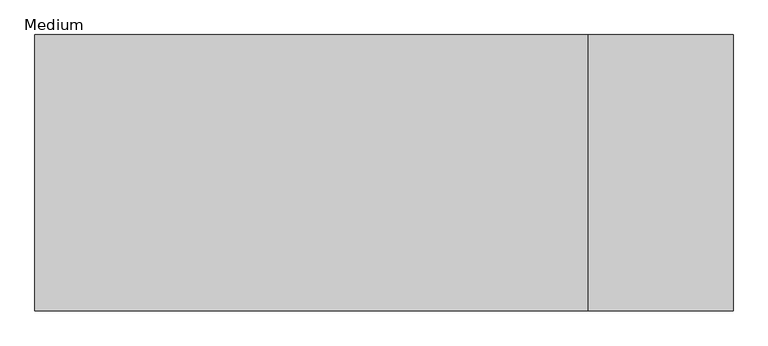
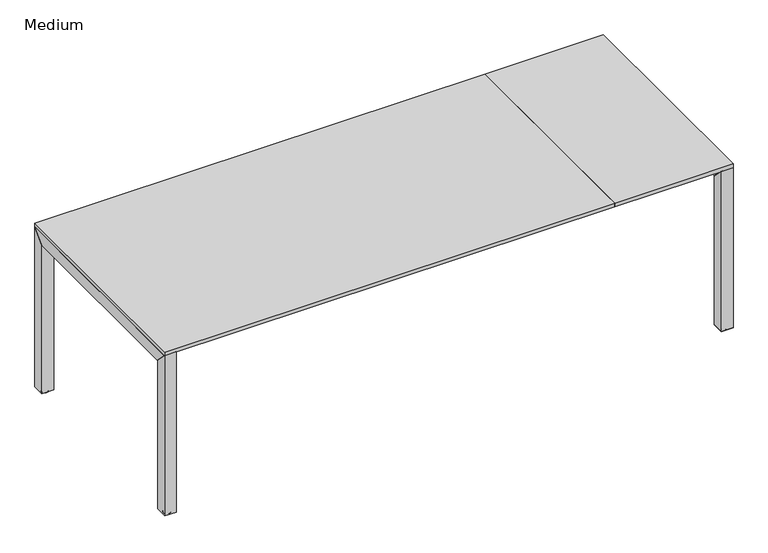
"""IFC4 building model written with IfcOpenShell, lengths in millimetres: furniture geometry, Haworth_Cassina_Naan_CollaborativeTable_ExtendableWidth_NA : Medium."""

from ifc_helpers import new_model, si_unit, point, frame, origin, place, context, project, spatial, polyline, circle_curve, ellipse_curve, trimmed, outline, extrude, faceted_brep, source, transform, mapped, element, save
from ifc_brep_helpers import plane_surface, cylinder_surface, revolved_surface, advanced_brep


def medium_e8491f86(model_context):
    return source(origin(), model_context, "Body", "SolidModel", [
        advanced_brep(
        [(-1315.5953804, 155.2687122, 4.1000279), (-1346.7850479, 155.2687122, 4.1000279), (-1331.1902141, 155.2687122, 4.1000279), (-1315.5953804, 155.2687122, 1.8535082), (-1346.7850479, 155.2687122, 1.8535082), (-1331.1902141, 155.2687122, 0.0), (-1344.9315396, 155.2687122, 0.0), (-1317.4488886, 155.2687122, 0.0)],
        [
            (0, 1, circle_curve(frame((-1331.1902141, 155.2687122, 4.1000279), z_axis=(0.0, 0.0, 1.0), x_axis=(-1.0, 0.0, 0.0)), 15.5948337)),
            (1, 2),
            (2, 0),
            (1, 0, circle_curve(frame((-1331.1902141, 155.2687122, 4.1000279), z_axis=(0.0, 0.0, 1.0), x_axis=(-1.0, 0.0, 0.0)), 15.5948337)),
            (3, 4, circle_curve(frame((-1331.1902141, 155.2687122, 1.8535082), z_axis=(0.0, 0.0, 1.0), x_axis=(-1.0, 0.0, 0.0)), 15.5948337)),
            (4, 1),
            (0, 3),
            (4, 3, circle_curve(frame((-1331.1902141, 155.2687122, 1.8535082), z_axis=(0.0, 0.0, 1.0), x_axis=(-1.0, 0.0, 0.0)), 15.5948337)),
            (5, 6),
            (6, 7, circle_curve(frame((-1331.1902141, 155.2687122, 0.0), z_axis=(0.0, 0.0, -1.0), x_axis=(-1.0, 0.0, 0.0)), 13.7413255)),
            (7, 5),
            (7, 6, circle_curve(frame((-1331.1902141, 155.2687122, 0.0), z_axis=(0.0, 0.0, -1.0), x_axis=(-1.0, 0.0, 0.0)), 13.7413255)),
            (6, 4, circle_curve(frame((-1344.9315396, 155.2687122, 1.8535082), z_axis=(0.0, 1.0, 0.0), x_axis=(1.0, 0.0, 0.0)), 1.8535082)),
            (3, 7, circle_curve(frame((-1317.4488886, 155.2687122, 1.8535082), z_axis=(0.0, 1.0, 0.0), x_axis=(-1.0, 0.0, 0.0)), 1.8535082)),
        ],
        [
            plane_surface(frame((-1331.1902141, 155.2687122, 4.1000279), z_axis=(0.0, 0.0, 1.0), x_axis=(-1.0, 0.0, 0.0))),
            cylinder_surface(frame((-1331.1902141, 155.2687122, 7.8640452), z_axis=(0.0, 0.0, -1.0), x_axis=(-1.0, 0.0, 0.0)), 15.5948337),
            plane_surface(frame((-1331.1902141, 155.2687122, 0.0), z_axis=(0.0, 0.0, -1.0), x_axis=(-1.0, 0.0, 0.0))),
            revolved_surface(trimmed(ellipse_curve(frame((-1344.9315396, 155.2687122, 1.8535082), z_axis=(0.0, -1.0, 0.0), x_axis=(1.0, 0.0, 0.0)), 1.8535082, 1.8535082), [point((-1346.7850479, 155.2687122, 1.8535082))], [point((-1344.9315396, 155.2687122, 0.0))], True, "CARTESIAN"), (-1331.1902141, 155.2687122, 7.8640452), (0.0, 0.0, -1.0)),
        ],
        [
            (0, [[1, 2, 3]]),
            (0, [[4, -3, -2]]),
            (1, [[5, 6, -1, 7]]),
            (1, [[8, -7, -4, -6]]),
            (2, [[9, 10, 11]]),
            (2, [[-11, 12, -9]]),
            (3, [[-10, 13, -5, 14]]),
            (3, [[-12, -14, -8, -13]]),
        ],
    ),
        advanced_brep(
        [(-1331.1902141, -739.4687122, 4.1000279), (-1346.7850479, -739.4687122, 4.1000279), (-1315.5953804, -739.4687122, 4.1000279), (-1346.7850479, -739.4687122, 1.8535082), (-1315.5953804, -739.4687122, 1.8535082), (-1317.4488886, -739.4687122, 0.0), (-1344.9315396, -739.4687122, 0.0), (-1331.1902141, -739.4687122, 0.0)],
        [
            (0, 1),
            (1, 2, circle_curve(frame((-1331.1902141, -739.4687122, 4.1000279), z_axis=(0.0, 0.0, 1.0), x_axis=(-1.0, 0.0, 0.0)), 15.5948337)),
            (2, 0),
            (2, 1, circle_curve(frame((-1331.1902141, -739.4687122, 4.1000279), z_axis=(0.0, 0.0, 1.0), x_axis=(-1.0, 0.0, 0.0)), 15.5948337)),
            (1, 3),
            (3, 4, circle_curve(frame((-1331.1902141, -739.4687122, 1.8535082), z_axis=(0.0, 0.0, 1.0), x_axis=(-1.0, 0.0, 0.0)), 15.5948337)),
            (4, 2),
            (4, 3, circle_curve(frame((-1331.1902141, -739.4687122, 1.8535082), z_axis=(0.0, 0.0, 1.0), x_axis=(-1.0, 0.0, 0.0)), 15.5948337)),
            (5, 6, circle_curve(frame((-1331.1902141, -739.4687122, 0.0), z_axis=(0.0, 0.0, -1.0), x_axis=(-1.0, 0.0, 0.0)), 13.7413255)),
            (6, 7),
            (7, 5),
            (6, 5, circle_curve(frame((-1331.1902141, -739.4687122, 0.0), z_axis=(0.0, 0.0, -1.0), x_axis=(-1.0, 0.0, 0.0)), 13.7413255)),
            (3, 6, circle_curve(frame((-1344.9315396, -739.4687122, 1.8535082), z_axis=(0.0, -1.0, 0.0), x_axis=(1.0, 0.0, 0.0)), 1.8535082)),
            (5, 4, circle_curve(frame((-1317.4488886, -739.4687122, 1.8535082), z_axis=(0.0, -1.0, 0.0), x_axis=(-1.0, 0.0, 0.0)), 1.8535082)),
        ],
        [
            plane_surface(frame((-1331.1902141, -739.4687122, 4.1000279), z_axis=(0.0, 0.0, 1.0), x_axis=(-1.0, 0.0, 0.0))),
            cylinder_surface(frame((-1331.1902141, -739.4687122, 7.8640452), z_axis=(0.0, 0.0, 1.0), x_axis=(-1.0, 0.0, 0.0)), 15.5948337),
            plane_surface(frame((-1331.1902141, -739.4687122, 0.0), z_axis=(0.0, 0.0, -1.0), x_axis=(-1.0, 0.0, 0.0))),
            revolved_surface(trimmed(ellipse_curve(frame((-1344.9315396, -739.4687122, 1.8535082), z_axis=(0.0, 1.0, 0.0), x_axis=(1.0, 0.0, 0.0)), 1.8535082, 1.8535082), [point((-1344.9315396, -739.4687122, 0.0))], [point((-1346.7850479, -739.4687122, 1.8535082))], True, "CARTESIAN"), (-1331.1902141, -739.4687122, 7.8640452), (0.0, 0.0, 1.0)),
        ],
        [
            (0, [[1, 2, 3]]),
            (0, [[-3, 4, -1]]),
            (1, [[-2, 5, 6, 7]]),
            (1, [[-4, -7, 8, -5]]),
            (2, [[9, 10, 11]]),
            (2, [[12, -11, -10]]),
            (3, [[-6, 13, -9, 14]]),
            (3, [[-8, -14, -12, -13]]),
        ],
    ),
        extrude(outline(polyline([(128.55748, 669.9826515), (-713.0945274, 669.9826515), (-764.8583806, 721.746543), (180.3213715, 721.746543), (128.55748, 669.9826515)])), frame((-1355.5952882, 0.0, 0.0), z_axis=(1.0, 0.0, 0.0), x_axis=(0.0, 1.0, 0.0)), (0.0, 0.0, 1.0), 49.3807068),
        extrude(outline(polyline([(131.71096, 671.3847462), (182.88, 722.5537482), (182.88, 7.8640452), (131.71096, 7.8640452), (131.71096, 671.3847462)])), frame((-1355.5952882, 0.0, 0.0), z_axis=(1.0, 0.0, 0.0), x_axis=(0.0, 1.0, 0.0)), (0.0, 0.0, 1.0), 49.3807068),
        extrude(outline(polyline([(-715.91096, 671.3847462), (-715.91096, 7.8640452), (-767.08, 7.8640452), (-767.08, 722.5537482), (-715.91096, 671.3847462)])), frame((-1355.5952882, 0.0, 0.0), z_axis=(1.0, 0.0, 0.0), x_axis=(0.0, 1.0, 0.0)), (0.0, 0.0, 1.0), 49.3807068),
        advanced_brep(
        [(1020.2996378, 155.2687122, 4.1000279), (1035.8944715, 155.2687122, 4.1000279), (1004.7048041, 155.2687122, 4.1000279), (1035.8944715, 155.2687122, 1.8535082), (1004.7048041, 155.2687122, 1.8535082), (1006.5583123, 155.2687122, 0.0), (1034.0409633, 155.2687122, 0.0), (1020.2996378, 155.2687122, 0.0)],
        [
            (0, 1),
            (1, 2, circle_curve(frame((1020.2996378, 155.2687122, 4.1000279), z_axis=(0.0, 0.0, 1.0), x_axis=(1.0, 0.0, 0.0)), 15.5948337)),
            (2, 0),
            (2, 1, circle_curve(frame((1020.2996378, 155.2687122, 4.1000279), z_axis=(0.0, 0.0, 1.0), x_axis=(1.0, 0.0, 0.0)), 15.5948337)),
            (1, 3),
            (3, 4, circle_curve(frame((1020.2996378, 155.2687122, 1.8535082), z_axis=(0.0, 0.0, 1.0), x_axis=(1.0, 0.0, 0.0)), 15.5948337)),
            (4, 2),
            (4, 3, circle_curve(frame((1020.2996378, 155.2687122, 1.8535082), z_axis=(0.0, 0.0, 1.0), x_axis=(1.0, 0.0, 0.0)), 15.5948337)),
            (5, 6, circle_curve(frame((1020.2996378, 155.2687122, 0.0), z_axis=(0.0, 0.0, -1.0), x_axis=(1.0, 0.0, 0.0)), 13.7413255)),
            (6, 7),
            (7, 5),
            (6, 5, circle_curve(frame((1020.2996378, 155.2687122, 0.0), z_axis=(0.0, 0.0, -1.0), x_axis=(1.0, 0.0, 0.0)), 13.7413255)),
            (3, 6, circle_curve(frame((1034.0409633, 155.2687122, 1.8535082), z_axis=(0.0, 1.0, 0.0), x_axis=(-1.0, 0.0, 0.0)), 1.8535082)),
            (5, 4, circle_curve(frame((1006.5583123, 155.2687122, 1.8535082), z_axis=(0.0, 1.0, 0.0), x_axis=(1.0, 0.0, 0.0)), 1.8535082)),
        ],
        [
            plane_surface(frame((1020.2996378, 155.2687122, 4.1000279), z_axis=(0.0, 0.0, 1.0), x_axis=(1.0, 0.0, 0.0))),
            cylinder_surface(frame((1020.2996378, 155.2687122, 7.8640452), z_axis=(0.0, 0.0, 1.0), x_axis=(1.0, 0.0, 0.0)), 15.5948337),
            plane_surface(frame((1020.2996378, 155.2687122, 0.0), z_axis=(0.0, 0.0, -1.0), x_axis=(1.0, 0.0, 0.0))),
            revolved_surface(trimmed(ellipse_curve(frame((1034.0409633, 155.2687122, 1.8535082), z_axis=(0.0, -1.0, 0.0), x_axis=(-1.0, 0.0, 0.0)), 1.8535082, 1.8535082), [point((1034.0409633, 155.2687122, 0.0))], [point((1035.8944715, 155.2687122, 1.8535082))], True, "CARTESIAN"), (1020.2996378, 155.2687122, 7.8640452), (0.0, 0.0, 1.0)),
        ],
        [
            (0, [[1, 2, 3]]),
            (0, [[-3, 4, -1]]),
            (1, [[-2, 5, 6, 7]]),
            (1, [[-4, -7, 8, -5]]),
            (2, [[9, 10, 11]]),
            (2, [[12, -11, -10]]),
            (3, [[-6, 13, -9, 14]]),
            (3, [[-8, -14, -12, -13]]),
        ],
    ),
        faceted_brep([(1044.7047118, -715.91096, 7.8640452), (995.3240051, -715.91096, 7.8640452), (995.3240051, -767.08, 7.8640452), (1044.7047118, -767.08, 7.8640452), (1041.0334244, -719.5822107, 3.9258528), (1041.0334244, -761.2458018, 3.9258528), (999.3699796, -761.2458018, 3.9258528), (999.3699796, -719.5822107, 3.9258528)], [[[0, 1, 2, 3]], [[4, 5, 6, 7]], [[4, 7, 1, 0]], [[7, 6, 2, 1]], [[6, 5, 3, 2]], [[5, 4, 0, 3]]]),
        advanced_brep(
        [(1004.7048041, -739.4687122, 4.1000279), (1035.8944715, -739.4687122, 4.1000279), (1020.2996378, -739.4687122, 4.1000279), (1004.7048041, -739.4687122, 1.8535082), (1035.8944715, -739.4687122, 1.8535082), (1020.2996378, -739.4687122, 0.0), (1034.0409633, -739.4687122, 0.0), (1006.5583123, -739.4687122, 0.0)],
        [
            (0, 1, circle_curve(frame((1020.2996378, -739.4687122, 4.1000279), z_axis=(0.0, 0.0, 1.0), x_axis=(1.0, 0.0, 0.0)), 15.5948337)),
            (1, 2),
            (2, 0),
            (1, 0, circle_curve(frame((1020.2996378, -739.4687122, 4.1000279), z_axis=(0.0, 0.0, 1.0), x_axis=(1.0, 0.0, 0.0)), 15.5948337)),
            (3, 4, circle_curve(frame((1020.2996378, -739.4687122, 1.8535082), z_axis=(0.0, 0.0, 1.0), x_axis=(1.0, 0.0, 0.0)), 15.5948337)),
            (4, 1),
            (0, 3),
            (4, 3, circle_curve(frame((1020.2996378, -739.4687122, 1.8535082), z_axis=(0.0, 0.0, 1.0), x_axis=(1.0, 0.0, 0.0)), 15.5948337)),
            (5, 6),
            (6, 7, circle_curve(frame((1020.2996378, -739.4687122, 0.0), z_axis=(0.0, 0.0, -1.0), x_axis=(1.0, 0.0, 0.0)), 13.7413255)),
            (7, 5),
            (7, 6, circle_curve(frame((1020.2996378, -739.4687122, 0.0), z_axis=(0.0, 0.0, -1.0), x_axis=(1.0, 0.0, 0.0)), 13.7413255)),
            (6, 4, circle_curve(frame((1034.0409633, -739.4687122, 1.8535082), z_axis=(0.0, -1.0, 0.0), x_axis=(-1.0, 0.0, 0.0)), 1.8535082)),
            (3, 7, circle_curve(frame((1006.5583123, -739.4687122, 1.8535082), z_axis=(0.0, -1.0, 0.0), x_axis=(1.0, 0.0, 0.0)), 1.8535082)),
        ],
        [
            plane_surface(frame((1020.2996378, -739.4687122, 4.1000279), z_axis=(0.0, 0.0, 1.0), x_axis=(1.0, 0.0, 0.0))),
            cylinder_surface(frame((1020.2996378, -739.4687122, 7.8640452), z_axis=(0.0, 0.0, -1.0), x_axis=(1.0, 0.0, 0.0)), 15.5948337),
            plane_surface(frame((1020.2996378, -739.4687122, 0.0), z_axis=(0.0, 0.0, -1.0), x_axis=(1.0, 0.0, 0.0))),
            revolved_surface(trimmed(ellipse_curve(frame((1034.0409633, -739.4687122, 1.8535082), z_axis=(0.0, 1.0, 0.0), x_axis=(-1.0, 0.0, 0.0)), 1.8535082, 1.8535082), [point((1035.8944715, -739.4687122, 1.8535082))], [point((1034.0409633, -739.4687122, 0.0))], True, "CARTESIAN"), (1020.2996378, -739.4687122, 7.8640452), (0.0, 0.0, -1.0)),
        ],
        [
            (0, [[1, 2, 3]]),
            (0, [[4, -3, -2]]),
            (1, [[5, 6, -1, 7]]),
            (1, [[8, -7, -4, -6]]),
            (2, [[9, 10, 11]]),
            (2, [[-11, 12, -9]]),
            (3, [[-10, 13, -5, 14]]),
            (3, [[-12, -14, -8, -13]]),
        ],
    ),
        extrude(outline(polyline([(128.55748, 669.9826515), (-713.0945274, 669.9826515), (-764.8583806, 721.746543), (180.3213715, 721.746543), (128.55748, 669.9826515)])), frame((995.3240051, 0.0, 0.0), z_axis=(1.0, 0.0, 0.0), x_axis=(0.0, 1.0, 0.0)), (0.0, 0.0, 1.0), 49.3807068),
        extrude(outline(polyline([(-715.91096, 671.3847462), (-715.91096, 7.8640452), (-767.08, 7.8640452), (-767.08, 722.5537482), (-715.91096, 671.3847462)])), frame((995.3240051, 0.0, 0.0), z_axis=(1.0, 0.0, 0.0), x_axis=(0.0, 1.0, 0.0)), (0.0, 0.0, 1.0), 49.3807068),
        extrude(outline(polyline([(131.71096, 671.3847462), (182.88, 722.5537482), (182.88, 7.8640452), (131.71096, 7.8640452), (131.71096, 671.3847462)])), frame((995.3240051, 0.0, 0.0), z_axis=(1.0, 0.0, 0.0), x_axis=(0.0, 1.0, 0.0)), (0.0, 0.0, 1.0), 49.3807068),
        extrude(outline(polyline([(544.3247118, 182.88), (544.3247118, -767.08), (-1355.5952882, -767.08), (-1355.5952882, 182.88), (544.3247118, 182.88)])), frame((0.0, 0.0, 722.5537482), z_axis=(0.0, 0.0, 1.0), x_axis=(1.0, 0.0, 0.0)), (0.0, 0.0, 1.0), 16.5862518),
        extrude(outline(polyline([(544.3247118, 182.88), (1044.7047118, 182.88), (1044.7047118, -767.08), (544.3247118, -767.08), (544.3247118, 182.88)])), frame((0.0, 0.0, 722.5537482), z_axis=(0.0, 0.0, 1.0), x_axis=(1.0, 0.0, 0.0)), (0.0, 0.0, 1.0), 16.5862518),
    ])


if __name__ == "__main__":
    model = new_model("IFC4")
    model_context = context("Model", 3, world=origin())
    ifc_project = project(units=[si_unit("LENGTHUNIT", "METRE", prefix="MILLI")], contexts=[model_context])
    site = spatial("IfcSite", under=ifc_project)
    building = spatial("IfcBuilding", under=site)
    placement = place(None, origin())
    medium_shape = medium_e8491f86(model_context)
    element("IfcFurniture", 1, ObjectType="Haworth_Cassina_Naan_CollaborativeTable_ExtendableWidth_NA : Medium", at=placement, inside=building, context=model_context, shape_type="MappedRepresentation", body=[
        mapped(medium_shape, transform((0.0, 0.0, 0.0), x_axis=(1.0, 0.0, 0.0), y_axis=(0.0, 1.0, 0.0), z_axis=(0.0, 0.0, 1.0))),
    ])
    save(model, "model.ifc")
